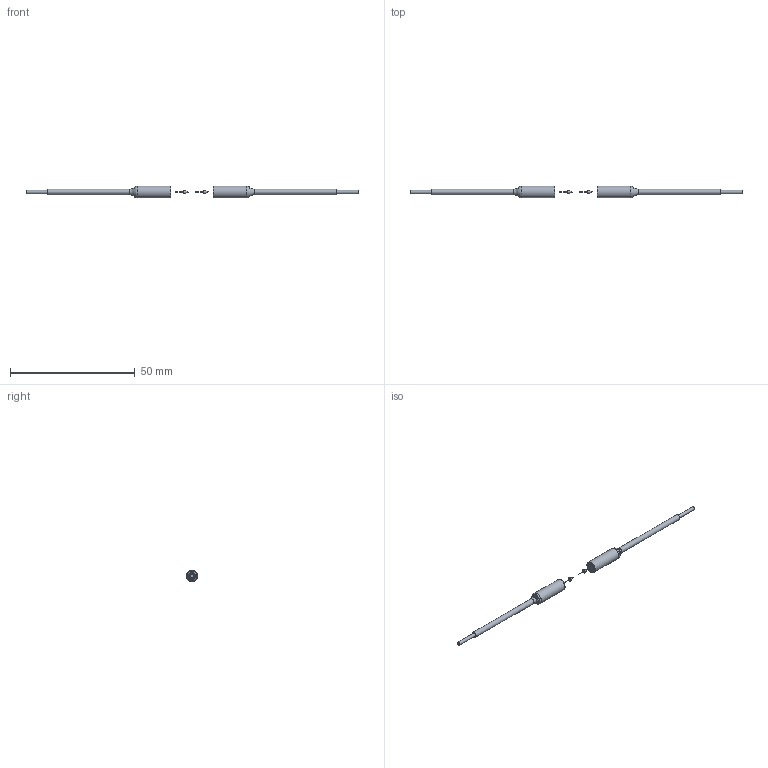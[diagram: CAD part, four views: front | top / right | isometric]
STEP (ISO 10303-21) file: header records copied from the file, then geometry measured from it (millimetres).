
FILE_DESCRIPTION( ( 'Unknown' ), '1' );
FILE_NAME( 'X:/SolidEdge/Models/Dokumentationen/Opto/Lichtleiter/Azbil/Fiber2014/Vereinfachte Modelle/Neutralformate/HPF-T029.stp', 'Unknown', ( 'Unknown' ), ( 'Unknown' ), 'PSStep 15.0.49', 'Unknown', ' ' );
FILE_SCHEMA( ( 'AUTOMOTIVE_DESIGN { 1 0 10303 214 1 1 1 1 }' ) );
Length unit declared in the file: millimetre
Products named in the file (5): Assem1; HPF-T029_S; HPF-T029_E
Assembly tree (4 placements, depth 2):
  Assem1
    HPF-T029_S
    HPF-T029_S
    HPF-T029_E
    HPF-T029_E
Bounding box: 133.22 x 4.7 x 4.7 mm (x, y, z)
Volume: 729.4 mm3; surface area: 2446.6 mm2
Topology: 4 solids, 4 shells, 44 faces, 84 edges, 56 vertices
Faces by surface type: cylinder 16, plane 16, cone 6, torus 4, bspline 2
Full cylindrical faces by diameter (mm): 0.1 x2, 1.295 x2, 1.599 x2, 2.2 x2, 3 x2, 4.05 x2, 4.099 x2, 4.7 x2
Entity records: 1336 total; most frequent: CARTESIAN_POINT 185, DIRECTION 174, AXIS2_PLACEMENT_3D 87, EDGE_LOOP 80, ORIENTED_EDGE 80, FACE_OUTER_BOUND 66, STYLED_ITEM 44, PRESENTATION_STYLE_ASSIGNMENT 44
